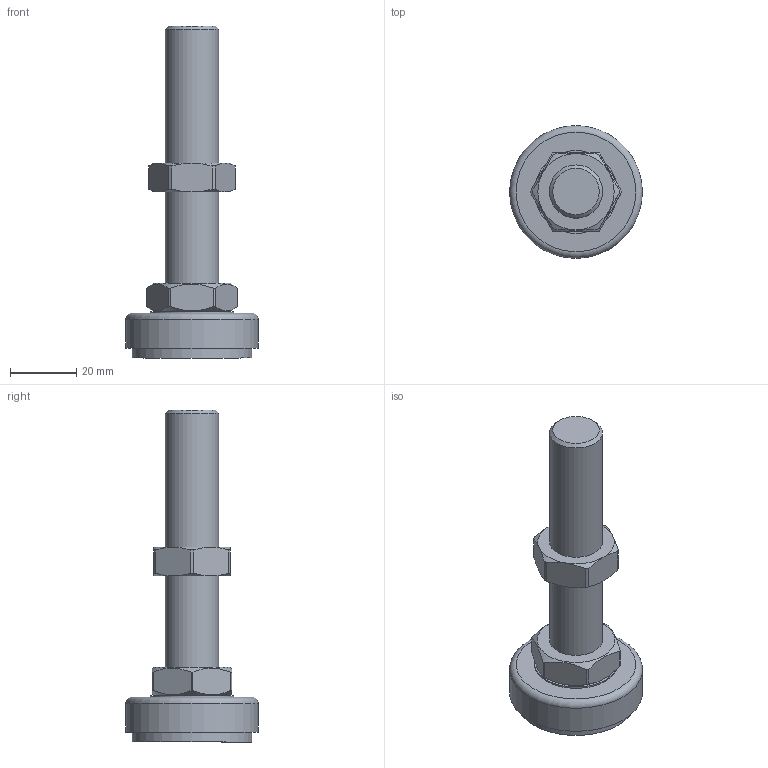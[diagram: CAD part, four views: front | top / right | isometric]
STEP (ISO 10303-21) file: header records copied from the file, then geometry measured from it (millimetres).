
FILE_DESCRIPTION(('STEP AP214'),'1');
FILE_NAME('AJ1640-L100.stp','2024-07-15T02:22:12',(' '),(' '),'Spatial InterOp 3D',' ',' ');
FILE_SCHEMA(('AUTOMOTIVE_DESIGN { 1 0 10303 214 1 1 1 1 }'));
Length unit declared in the file: millimetre
Products named in the file (3): AJ1640-L100; ___9; AJ1640-100
Assembly tree (2 placements, depth 2):
  AJ1640-L100
    ___9
    AJ1640-100
Bounding box: 40 x 40 x 100 mm (x, y, z)
Volume: 36720.2 mm3; surface area: 10906.8 mm2
Topology: 2 solids, 2 shells, 57 faces, 129 edges, 82 vertices
Faces by surface type: plane 22, cylinder 19, cone 15, torus 1
Full cylindrical faces by diameter (mm): 9 x1, 16 x2, 19 x1, 25 x1, 36 x1, 40 x1
Entity records: 2154 total; most frequent: CARTESIAN_POINT 444, DIRECTION 252, ORIENTED_EDGE 228, AXIS2_PLACEMENT_3D 114, EDGE_CURVE 114, VERTEX_POINT 78, EDGE_LOOP 76, FACE_OUTER_BOUND 65
